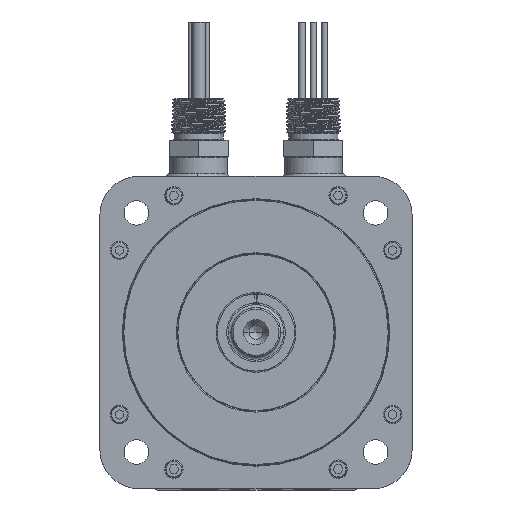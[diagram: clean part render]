
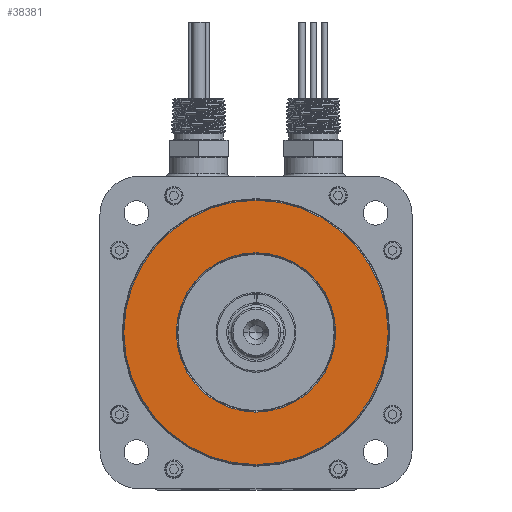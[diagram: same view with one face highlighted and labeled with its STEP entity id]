
A CAD part, top view. The second image highlights one B-rep face of the part: STEP entity #38381.
In plain terms, the highlighted planar face has unit normal (0, 0, 1).
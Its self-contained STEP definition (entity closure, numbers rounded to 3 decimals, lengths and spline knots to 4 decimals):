
#630 = CIRCLE ( 'NONE', #1184, 2.5391 ) ;
#1131 = ORIENTED_EDGE ( 'NONE', *, *, #31637, .F. ) ;
#1184 = AXIS2_PLACEMENT_3D ( 'NONE', #58784, #23629, #64685 ) ;
#2368 = DIRECTION ( 'NONE',  ( 0., 0., 1. ) ) ;
#3354 = AXIS2_PLACEMENT_3D ( 'NONE', #37415, #2368, #43331 ) ;
#5281 = ORIENTED_EDGE ( 'NONE', *, *, #20801, .T. ) ;
#5477 = EDGE_LOOP ( 'NONE', ( #1131, #24202 ) ) ;
#7211 = PLANE ( 'NONE',  #67485 ) ;
#8591 = CARTESIAN_POINT ( 'NONE',  ( 0., 0., 0. ) ) ;
#11265 = VERTEX_POINT ( 'NONE', #40009 ) ;
#13099 = DIRECTION ( 'NONE',  ( 0., 0., 1. ) ) ;
#14481 = DIRECTION ( 'NONE',  ( 1., 0., 0. ) ) ;
#14784 = CIRCLE ( 'NONE', #22970, 1.5305 ) ;
#14791 = CARTESIAN_POINT ( 'NONE',  ( 1.5305, 0., 0. ) ) ;
#18445 = CIRCLE ( 'NONE', #3354, 2.5391 ) ;
#20519 = DIRECTION ( 'NONE',  ( 0., 0., 1. ) ) ;
#20801 = EDGE_CURVE ( 'NONE', #68694, #33239, #630, .T. ) ;
#22970 = AXIS2_PLACEMENT_3D ( 'NONE', #55636, #20519, #61585 ) ;
#23629 = DIRECTION ( 'NONE',  ( 0., 0., 1. ) ) ;
#23921 = VERTEX_POINT ( 'NONE', #14791 ) ;
#24202 = ORIENTED_EDGE ( 'NONE', *, *, #51852, .F. ) ;
#31637 = EDGE_CURVE ( 'NONE', #23921, #11265, #61888, .T. ) ;
#33239 = VERTEX_POINT ( 'NONE', #56330 ) ;
#33605 = FACE_OUTER_BOUND ( 'NONE', #53153, .T. ) ;
#37415 = CARTESIAN_POINT ( 'NONE',  ( 0., 0., 0. ) ) ;
#37508 = CARTESIAN_POINT ( 'NONE',  ( 2.5391, 0., 0. ) ) ;
#38381 = ADVANCED_FACE ( 'NONE', ( #33605, #64887 ), #7211, .T. ) ;
#40009 = CARTESIAN_POINT ( 'NONE',  ( -1.5305, 0., 0. ) ) ;
#43331 = DIRECTION ( 'NONE',  ( 1., 0., 0. ) ) ;
#49597 = DIRECTION ( 'NONE',  ( 0., 0., 1. ) ) ;
#51406 = AXIS2_PLACEMENT_3D ( 'NONE', #8591, #49597, #14481 ) ;
#51778 = ORIENTED_EDGE ( 'NONE', *, *, #51804, .T. ) ;
#51804 = EDGE_CURVE ( 'NONE', #33239, #68694, #18445, .T. ) ;
#51852 = EDGE_CURVE ( 'NONE', #11265, #23921, #14784, .T. ) ;
#53153 = EDGE_LOOP ( 'NONE', ( #51778, #5281 ) ) ;
#54088 = DIRECTION ( 'NONE',  ( 1., 0., 0. ) ) ;
#55636 = CARTESIAN_POINT ( 'NONE',  ( 0., 0., 0. ) ) ;
#56330 = CARTESIAN_POINT ( 'NONE',  ( -2.5391, 0., 0. ) ) ;
#58784 = CARTESIAN_POINT ( 'NONE',  ( 0., 0., 0. ) ) ;
#61585 = DIRECTION ( 'NONE',  ( 1., 0., 0. ) ) ;
#61888 = CIRCLE ( 'NONE', #51406, 1.5305 ) ;
#64685 = DIRECTION ( 'NONE',  ( 1., 0., 0. ) ) ;
#64887 = FACE_BOUND ( 'NONE', #5477, .T. ) ;
#65646 = CARTESIAN_POINT ( 'NONE',  ( 0., 1.5305, 0. ) ) ;
#67485 = AXIS2_PLACEMENT_3D ( 'NONE', #65646, #13099, #54088 ) ;
#68694 = VERTEX_POINT ( 'NONE', #37508 ) ;
